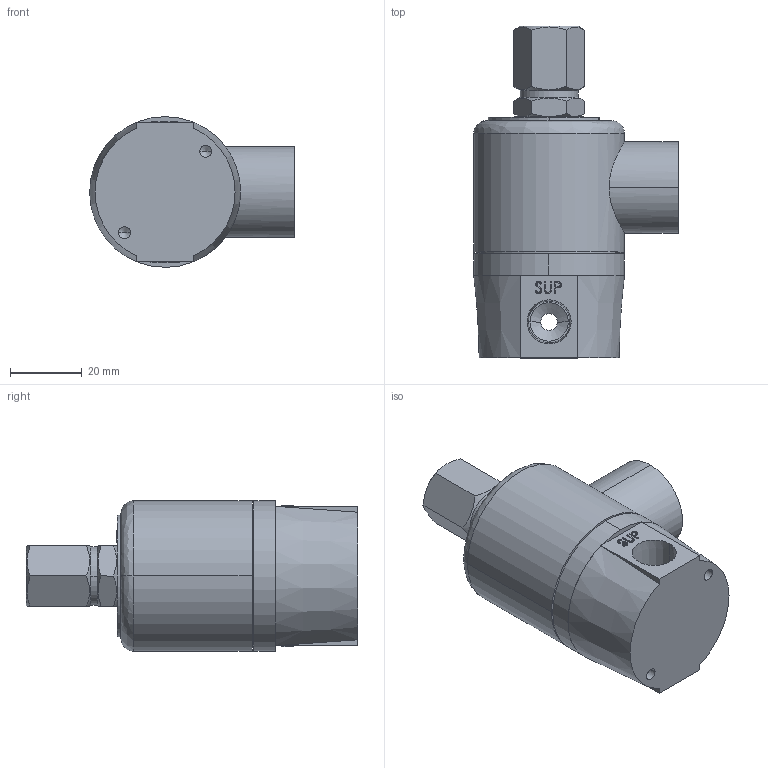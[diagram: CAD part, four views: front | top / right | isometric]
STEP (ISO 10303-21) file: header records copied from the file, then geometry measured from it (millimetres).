
FILE_DESCRIPTION (( 'STEP AP203' ), '1' );
FILE_NAME ('SS2300-02-#.STEP', '2016-02-04T06:21:33', ( 'Sam Lin' ), ( '' ), 'SwSTEP 2.0', 'SolidWorks 2013', '' );
FILE_SCHEMA (( 'CONFIG_CONTROL_DESIGN' ));
Length unit declared in the file: metre
Products named in the file (8): AS2200-1; AS2200-2; SS2300-2; SS2300-1; SS2300-3; mark-SS2300; SS2300-4; SS2300-02-#
Assembly tree (7 placements, depth 2):
  SS2300-02-#
    AS2200-1
    AS2200-2
    SS2300-2
    SS2300-1
    SS2300-3
    mark-SS2300
    SS2300-4
Bounding box: 57 x 92.5 x 42 mm (x, y, z)
Volume: 49772.4 mm3; surface area: 28857.1 mm2
Topology: 13 solids, 13 shells, 280 faces, 714 edges, 470 vertices
Faces by surface type: plane 144, cylinder 59, bspline 49, cone 28
Entity records: 11986 total; most frequent: CARTESIAN_POINT 4635, ORIENTED_EDGE 1420, DIRECTION 1200, EDGE_CURVE 710, VERTEX_POINT 470, LINE 418, VECTOR 418, AXIS2_PLACEMENT_3D 391
